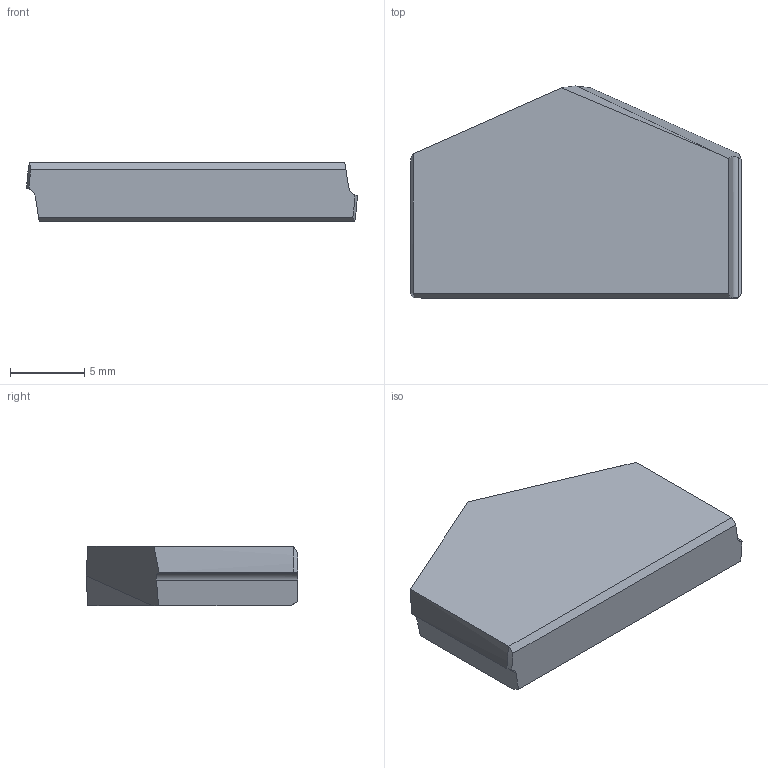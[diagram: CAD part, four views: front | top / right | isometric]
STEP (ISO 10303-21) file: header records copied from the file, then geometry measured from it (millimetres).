
FILE_DESCRIPTION (( 'STEP AP214' ), '1' );
FILE_NAME ('7-8.STEP', '2022-06-24T05:45:22', ( '' ), ( '' ), 'SwSTEP 2.0', 'SolidWorks 2018', '' );
FILE_SCHEMA (( 'AUTOMOTIVE_DESIGN' ));
Length unit declared in the file: millimetre
Products named in the file (1): 7-8
Bounding box: 22.22 x 14.25 x 4 mm (x, y, z)
Volume: 1013 mm3; surface area: 754.9 mm2
Topology: 1 solids, 1 shells, 19 faces, 50 edges, 33 vertices
Faces by surface type: plane 13, cylinder 4, cone 2
Entity records: 620 total; most frequent: CARTESIAN_POINT 133, ORIENTED_EDGE 100, DIRECTION 86, EDGE_CURVE 50, VECTOR 34, LINE 34, VERTEX_POINT 33, AXIS2_PLACEMENT_3D 26
